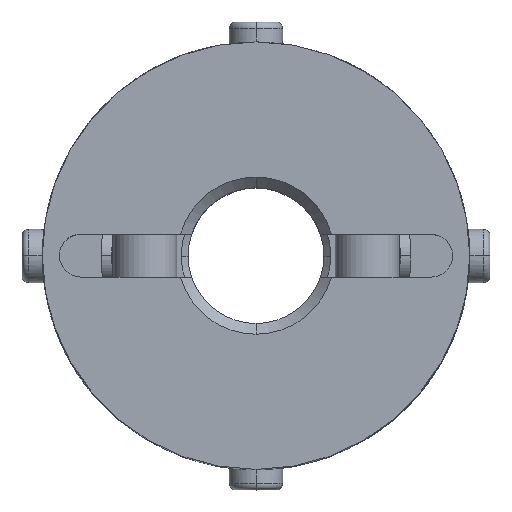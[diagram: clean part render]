
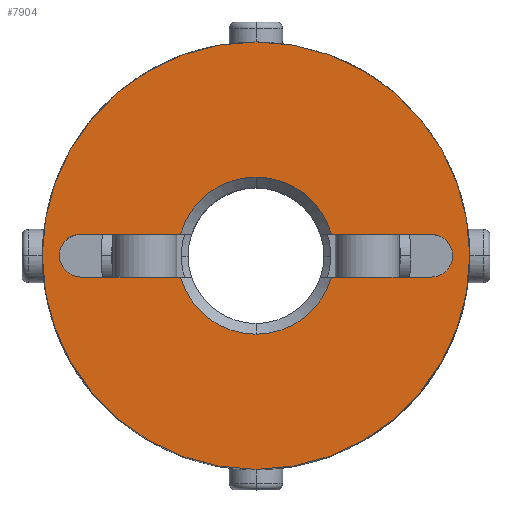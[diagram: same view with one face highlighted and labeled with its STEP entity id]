
A CAD part, top view. The second image highlights one B-rep face of the part: STEP entity #7904.
In plain terms, the highlighted planar face has unit normal (0, 0, 1).
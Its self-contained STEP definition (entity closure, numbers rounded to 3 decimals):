
#633=CARTESIAN_POINT('',(-8.907,-0.707,10.0));
#634=VERTEX_POINT('',#633);
#650=CARTESIAN_POINT('',(-8.2,1.,10.0));
#651=VERTEX_POINT('',#650);
#658=CARTESIAN_POINT('',(-8.2,0.,10.0));
#659=DIRECTION('',(0.0,0.0,1.0));
#660=DIRECTION('',(-0.707,0.707,0.0));
#661=AXIS2_PLACEMENT_3D('',#658,#659,#660);
#662=CIRCLE('',#661,1.);
#663=EDGE_CURVE('',#651,#634,#662,.T.);
#675=CARTESIAN_POINT('',(8.907,0.707,10.0));
#676=VERTEX_POINT('',#675);
#692=CARTESIAN_POINT('',(8.2,-1.,10.0));
#693=VERTEX_POINT('',#692);
#700=CARTESIAN_POINT('',(8.2,0.,10.0));
#701=DIRECTION('',(0.0,0.0,1.0));
#702=DIRECTION('',(0.707,-0.707,0.0));
#703=AXIS2_PLACEMENT_3D('',#700,#701,#702);
#704=CIRCLE('',#703,1.0);
#705=EDGE_CURVE('',#693,#676,#704,.T.);
#715=CARTESIAN_POINT('',(0.,-3.675,10.0));
#716=VERTEX_POINT('',#715);
#724=CARTESIAN_POINT('',(-3.536,-1.,10.0));
#725=VERTEX_POINT('',#724);
#739=CARTESIAN_POINT('',(0.,0.,10.0));
#740=DIRECTION('',(0.0,0.0,1.0));
#741=DIRECTION('',(0.0,-1.0,0.0));
#742=AXIS2_PLACEMENT_3D('',#739,#740,#741);
#743=CIRCLE('',#742,3.675);
#744=EDGE_CURVE('',#725,#716,#743,.T.);
#756=CARTESIAN_POINT('',(0.,3.675,10.0));
#757=VERTEX_POINT('',#756);
#773=CARTESIAN_POINT('',(3.536,1.,10.0));
#774=VERTEX_POINT('',#773);
#788=CARTESIAN_POINT('',(0.,0.,10.0));
#789=DIRECTION('',(0.0,0.0,1.0));
#790=DIRECTION('',(0.0,1.0,0.0));
#791=AXIS2_PLACEMENT_3D('',#788,#789,#790);
#792=CIRCLE('',#791,3.675);
#793=EDGE_CURVE('',#774,#757,#792,.T.);
#1385=CARTESIAN_POINT('',(0.,-10.0,10.0));
#1386=VERTEX_POINT('',#1385);
#1393=CARTESIAN_POINT('',(0.,10.0,10.0));
#1394=VERTEX_POINT('',#1393);
#1395=CARTESIAN_POINT('',(0.0,0.0,10.0));
#1396=DIRECTION('',(0.0,0.0,-1.0));
#1397=DIRECTION('',(0.0,1.0,0.0));
#1398=AXIS2_PLACEMENT_3D('',#1395,#1396,#1397);
#1399=CIRCLE('',#1398,10.0);
#1400=EDGE_CURVE('',#1386,#1394,#1399,.T.);
#7211=CARTESIAN_POINT('',(0.0,0.0,10.0));
#7212=DIRECTION('',(0.0,0.0,-1.0));
#7213=DIRECTION('',(0.0,1.0,0.0));
#7214=AXIS2_PLACEMENT_3D('',#7211,#7212,#7213);
#7215=CIRCLE('',#7214,10.0);
#7216=EDGE_CURVE('',#1394,#1386,#7215,.T.);
#7700=CARTESIAN_POINT('',(3.536,-1.,10.0));
#7701=VERTEX_POINT('',#7700);
#7715=CARTESIAN_POINT('',(8.2,-1.,10.0));
#7716=DIRECTION('',(-1.0,0.0,0.0));
#7717=VECTOR('',#7716,4.664);
#7718=LINE('',#7715,#7717);
#7719=EDGE_CURVE('',#693,#7701,#7718,.T.);
#7778=CARTESIAN_POINT('',(8.2,1.,10.0));
#7779=VERTEX_POINT('',#7778);
#7786=CARTESIAN_POINT('',(3.536,1.,10.0));
#7787=DIRECTION('',(1.0,0.0,0.0));
#7788=VECTOR('',#7787,4.664);
#7789=LINE('',#7786,#7788);
#7790=EDGE_CURVE('',#774,#7779,#7789,.T.);
#7807=CARTESIAN_POINT('',(-3.536,1.,10.0));
#7808=VERTEX_POINT('',#7807);
#7809=CARTESIAN_POINT('',(0.,0.,10.0));
#7810=DIRECTION('',(0.0,0.0,1.0));
#7811=DIRECTION('',(0.0,1.0,0.0));
#7812=AXIS2_PLACEMENT_3D('',#7809,#7810,#7811);
#7813=CIRCLE('',#7812,3.675);
#7814=EDGE_CURVE('',#757,#7808,#7813,.T.);
#7841=CARTESIAN_POINT('',(-8.2,1.,10.0));
#7842=DIRECTION('',(1.0,0.0,0.0));
#7843=VECTOR('',#7842,4.664);
#7844=LINE('',#7841,#7843);
#7845=EDGE_CURVE('',#651,#7808,#7844,.T.);
#7856=CARTESIAN_POINT('',(0.,0.909,10.0));
#7857=DIRECTION('',(0.0,0.0,1.0));
#7858=DIRECTION('',(0.0,1.0,0.0));
#7859=AXIS2_PLACEMENT_3D('',#7856,#7857,#7858);
#7860=PLANE('',#7859);
#7861=ORIENTED_EDGE('',*,*,#7216,.F.);
#7862=ORIENTED_EDGE('',*,*,#1400,.F.);
#7863=EDGE_LOOP('',(#7861,#7862));
#7864=FACE_OUTER_BOUND('',#7863,.T.);
#7865=ORIENTED_EDGE('',*,*,#793,.F.);
#7866=ORIENTED_EDGE('',*,*,#7790,.T.);
#7867=CARTESIAN_POINT('',(8.2,0.,10.0));
#7868=DIRECTION('',(0.0,0.0,1.0));
#7869=DIRECTION('',(0.707,-0.707,0.0));
#7870=AXIS2_PLACEMENT_3D('',#7867,#7868,#7869);
#7871=CIRCLE('',#7870,1.0);
#7872=EDGE_CURVE('',#676,#7779,#7871,.T.);
#7873=ORIENTED_EDGE('',*,*,#7872,.F.);
#7874=ORIENTED_EDGE('',*,*,#705,.F.);
#7875=ORIENTED_EDGE('',*,*,#7719,.T.);
#7876=CARTESIAN_POINT('',(0.,0.,10.0));
#7877=DIRECTION('',(0.0,0.0,1.0));
#7878=DIRECTION('',(0.0,-1.0,0.0));
#7879=AXIS2_PLACEMENT_3D('',#7876,#7877,#7878);
#7880=CIRCLE('',#7879,3.675);
#7881=EDGE_CURVE('',#716,#7701,#7880,.T.);
#7882=ORIENTED_EDGE('',*,*,#7881,.F.);
#7883=ORIENTED_EDGE('',*,*,#744,.F.);
#7884=CARTESIAN_POINT('',(-8.2,-1.,10.0));
#7885=VERTEX_POINT('',#7884);
#7886=CARTESIAN_POINT('',(-3.536,-1.,10.0));
#7887=DIRECTION('',(-1.0,0.0,0.0));
#7888=VECTOR('',#7887,4.664);
#7889=LINE('',#7886,#7888);
#7890=EDGE_CURVE('',#725,#7885,#7889,.T.);
#7891=ORIENTED_EDGE('',*,*,#7890,.T.);
#7892=CARTESIAN_POINT('',(-8.2,0.,10.0));
#7893=DIRECTION('',(0.0,0.0,1.0));
#7894=DIRECTION('',(-0.707,0.707,0.0));
#7895=AXIS2_PLACEMENT_3D('',#7892,#7893,#7894);
#7896=CIRCLE('',#7895,1.);
#7897=EDGE_CURVE('',#634,#7885,#7896,.T.);
#7898=ORIENTED_EDGE('',*,*,#7897,.F.);
#7899=ORIENTED_EDGE('',*,*,#663,.F.);
#7900=ORIENTED_EDGE('',*,*,#7845,.T.);
#7901=ORIENTED_EDGE('',*,*,#7814,.F.);
#7902=EDGE_LOOP('',(#7865,#7866,#7873,#7874,#7875,#7882,#7883,#7891,#7898,#7899,#7900,#7901));
#7903=FACE_BOUND('',#7902,.T.);
#7904=ADVANCED_FACE('',(#7864,#7903),#7860,.T.);
